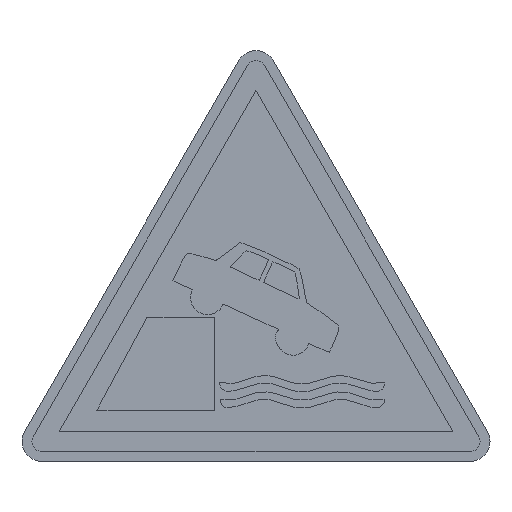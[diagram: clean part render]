
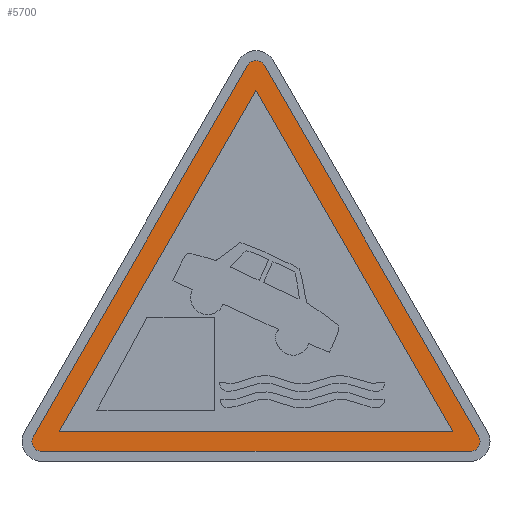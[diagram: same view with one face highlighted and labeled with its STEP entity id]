
A CAD part, top view. The second image highlights one B-rep face of the part: STEP entity #5700.
In plain terms, the highlighted planar face has unit normal (0, 0, 1).
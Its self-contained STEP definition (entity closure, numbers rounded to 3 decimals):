
#41 = VERTEX_POINT ( 'NONE', #6405 ) ;
#85 = DIRECTION ( 'NONE',  ( 1., 0., 0. ) ) ;
#126 = VECTOR ( 'NONE', #5263, 1000. ) ;
#193 = CARTESIAN_POINT ( 'NONE',  ( 0., 37.301, 0.22 ) ) ;
#254 = DIRECTION ( 'NONE',  ( 0., 0., 1. ) ) ;
#295 = ORIENTED_EDGE ( 'NONE', *, *, #1246, .F. ) ;
#457 = DIRECTION ( 'NONE',  ( 1., 0., 0. ) ) ;
#595 = CARTESIAN_POINT ( 'NONE',  ( 21.536, 1., 0.22 ) ) ;
#750 = AXIS2_PLACEMENT_3D ( 'NONE', #6106, #2978, #457 ) ;
#828 = EDGE_LOOP ( 'NONE', ( #870, #5048, #3535, #6499, #5786, #7253 ) ) ;
#870 = ORIENTED_EDGE ( 'NONE', *, *, #2137, .T. ) ;
#889 = CIRCLE ( 'NONE', #750, 1. ) ;
#1116 = DIRECTION ( 'NONE',  ( -0.5, 0.866, 0. ) ) ;
#1246 = EDGE_CURVE ( 'NONE', #41, #5975, #6759, .T. ) ;
#1254 = LINE ( 'NONE', #3216, #3360 ) ;
#1576 = DIRECTION ( 'NONE',  ( -0.5, -0.866, 0. ) ) ;
#1621 = LINE ( 'NONE', #5970, #126 ) ;
#1626 = EDGE_LOOP ( 'NONE', ( #4299, #7670, #295 ) ) ;
#1881 = CARTESIAN_POINT ( 'NONE',  ( -22.402, 2.5, 0.22 ) ) ;
#2121 = CARTESIAN_POINT ( 'NONE',  ( 0., 39.301, 0.22 ) ) ;
#2137 = EDGE_CURVE ( 'NONE', #4655, #5076, #7140, .T. ) ;
#2374 = CIRCLE ( 'NONE', #6984, 1. ) ;
#2381 = LINE ( 'NONE', #6751, #6028 ) ;
#2453 = FACE_BOUND ( 'NONE', #1626, .T. ) ;
#2504 = VECTOR ( 'NONE', #1116, 1000. ) ;
#2875 = CARTESIAN_POINT ( 'NONE',  ( 0., 37.301, 0.22 ) ) ;
#2893 = EDGE_CURVE ( 'NONE', #5975, #6761, #4032, .T. ) ;
#2922 = EDGE_CURVE ( 'NONE', #4437, #5787, #2374, .T. ) ;
#2947 = EDGE_CURVE ( 'NONE', #5739, #4437, #1621, .T. ) ;
#2978 = DIRECTION ( 'NONE',  ( 0., 0., 1. ) ) ;
#3216 = CARTESIAN_POINT ( 'NONE',  ( -19.804, 3., 0.22 ) ) ;
#3300 = LINE ( 'NONE', #7724, #7092 ) ;
#3360 = VECTOR ( 'NONE', #85, 1000. ) ;
#3418 = DIRECTION ( 'NONE',  ( 1., 0., 0. ) ) ;
#3535 = ORIENTED_EDGE ( 'NONE', *, *, #6569, .T. ) ;
#3646 = PLANE ( 'NONE',  #5859 ) ;
#4032 = LINE ( 'NONE', #2875, #8176 ) ;
#4184 = DIRECTION ( 'NONE',  ( 0., 0., 1. ) ) ;
#4299 = ORIENTED_EDGE ( 'NONE', *, *, #4602, .F. ) ;
#4320 = DIRECTION ( 'NONE',  ( 1., 0., 0. ) ) ;
#4437 = VERTEX_POINT ( 'NONE', #595 ) ;
#4462 = FACE_OUTER_BOUND ( 'NONE', #828, .T. ) ;
#4534 = CARTESIAN_POINT ( 'NONE',  ( -19.804, 3., 0.22 ) ) ;
#4587 = CARTESIAN_POINT ( 'NONE',  ( -21.536, 1., 0.22 ) ) ;
#4602 = EDGE_CURVE ( 'NONE', #6761, #41, #1254, .T. ) ;
#4655 = VERTEX_POINT ( 'NONE', #6270 ) ;
#5048 = ORIENTED_EDGE ( 'NONE', *, *, #7151, .T. ) ;
#5076 = VERTEX_POINT ( 'NONE', #8136 ) ;
#5263 = DIRECTION ( 'NONE',  ( 1., 0., 0. ) ) ;
#5443 = CARTESIAN_POINT ( 'NONE',  ( 22.402, 2.5, 0.22 ) ) ;
#5700 = ADVANCED_FACE ( 'NONE', ( #4462, #2453 ), #3646, .T. ) ;
#5739 = VERTEX_POINT ( 'NONE', #4587 ) ;
#5786 = ORIENTED_EDGE ( 'NONE', *, *, #2922, .T. ) ;
#5787 = VERTEX_POINT ( 'NONE', #5443 ) ;
#5859 = AXIS2_PLACEMENT_3D ( 'NONE', #2121, #254, #7743 ) ;
#5970 = CARTESIAN_POINT ( 'NONE',  ( -21.536, 1., 0.22 ) ) ;
#5975 = VERTEX_POINT ( 'NONE', #193 ) ;
#6028 = VECTOR ( 'NONE', #8043, 1000. ) ;
#6106 = CARTESIAN_POINT ( 'NONE',  ( -21.536, 2., 0.22 ) ) ;
#6144 = CARTESIAN_POINT ( 'NONE',  ( 0., 39.301, 0.22 ) ) ;
#6270 = CARTESIAN_POINT ( 'NONE',  ( 0.866, 39.801, 0.22 ) ) ;
#6350 = DIRECTION ( 'NONE',  ( -0.5, 0.866, 0. ) ) ;
#6405 = CARTESIAN_POINT ( 'NONE',  ( 19.804, 3., 0.22 ) ) ;
#6408 = VERTEX_POINT ( 'NONE', #1881 ) ;
#6480 = AXIS2_PLACEMENT_3D ( 'NONE', #6144, #7404, #4320 ) ;
#6499 = ORIENTED_EDGE ( 'NONE', *, *, #2947, .T. ) ;
#6569 = EDGE_CURVE ( 'NONE', #6408, #5739, #889, .T. ) ;
#6751 = CARTESIAN_POINT ( 'NONE',  ( -0.866, 39.801, 0.22 ) ) ;
#6759 = LINE ( 'NONE', #6840, #2504 ) ;
#6761 = VERTEX_POINT ( 'NONE', #4534 ) ;
#6840 = CARTESIAN_POINT ( 'NONE',  ( 19.804, 3., 0.22 ) ) ;
#6984 = AXIS2_PLACEMENT_3D ( 'NONE', #7179, #4184, #3418 ) ;
#7026 = EDGE_CURVE ( 'NONE', #5787, #4655, #3300, .T. ) ;
#7092 = VECTOR ( 'NONE', #6350, 1000. ) ;
#7140 = CIRCLE ( 'NONE', #6480, 1. ) ;
#7151 = EDGE_CURVE ( 'NONE', #5076, #6408, #2381, .T. ) ;
#7179 = CARTESIAN_POINT ( 'NONE',  ( 21.536, 2., 0.22 ) ) ;
#7253 = ORIENTED_EDGE ( 'NONE', *, *, #7026, .T. ) ;
#7404 = DIRECTION ( 'NONE',  ( 0., 0., 1. ) ) ;
#7670 = ORIENTED_EDGE ( 'NONE', *, *, #2893, .F. ) ;
#7724 = CARTESIAN_POINT ( 'NONE',  ( 22.402, 2.5, 0.22 ) ) ;
#7743 = DIRECTION ( 'NONE',  ( 1., 0., 0. ) ) ;
#8043 = DIRECTION ( 'NONE',  ( -0.5, -0.866, 0. ) ) ;
#8136 = CARTESIAN_POINT ( 'NONE',  ( -0.866, 39.801, 0.22 ) ) ;
#8176 = VECTOR ( 'NONE', #1576, 1000. ) ;
